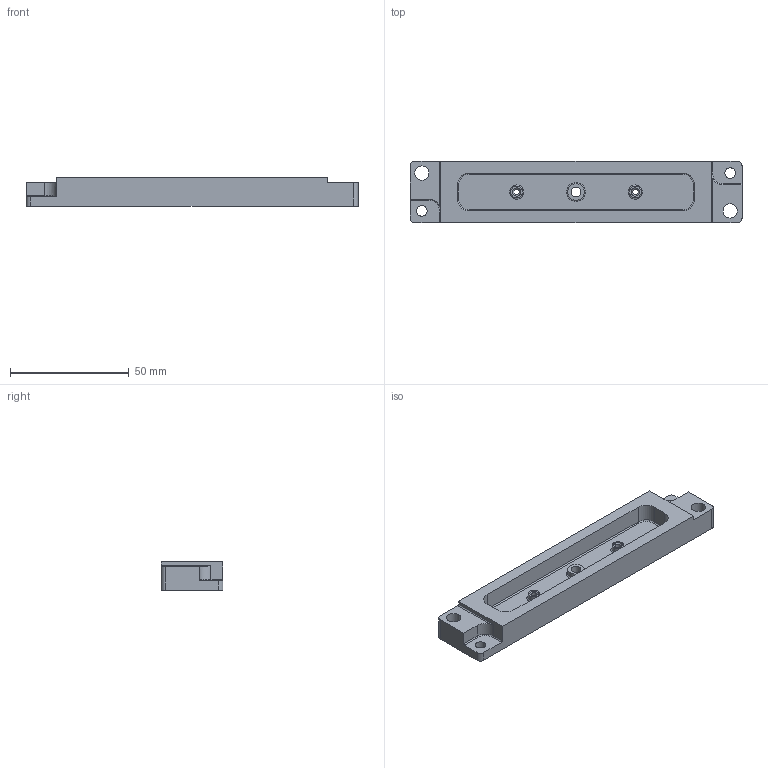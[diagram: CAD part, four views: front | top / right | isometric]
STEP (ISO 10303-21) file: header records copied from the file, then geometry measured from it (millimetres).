
FILE_DESCRIPTION(('STEP AP203'), '1');
FILE_NAME('ÒÏÏÔ1801.01.08.01.201-1 - Îïðàâêà êàïû', '', ('UNSPECIFIED'), ('UNSPECIFIED'), 'C3D Converter', 'C3D Toolkit', '');
FILE_SCHEMA(('CONFIG_CONTROL_DESIGN'));
Length unit declared in the file: millimetre
Products named in the file (1): ТППФ1801.01.08.01.201-1
Bounding box: 140 x 26 x 12 mm (x, y, z)
Volume: 27380.2 mm3; surface area: 13442.5 mm2
Topology: 1 solids, 1 shells, 70 faces, 166 edges, 104 vertices
Faces by surface type: cylinder 32, plane 24, torus 9, cone 5
Full cylindrical faces by diameter (mm): 2.459 x2, 4.134 x1, 4.5 x2, 5 x2, 6 x2, 7 x1, 10 x2
Entity records: 2610 total; most frequent: CARTESIAN_POINT 381, DIRECTION 362, ORIENTED_EDGE 292, AXIS2_PLACEMENT_3D 147, EDGE_CURVE 146, EDGE_LOOP 110, VERTEX_POINT 104, CIRCLE 76
